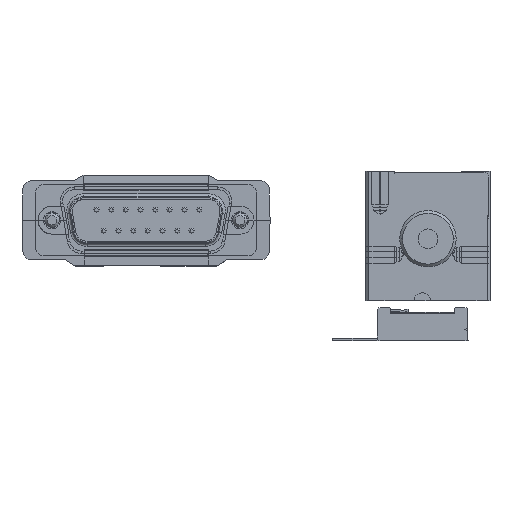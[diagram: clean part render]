
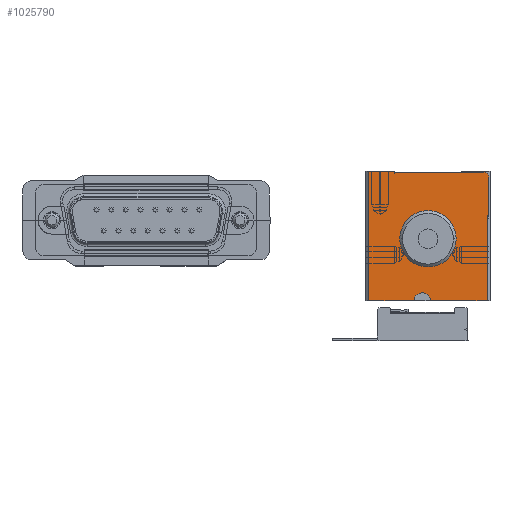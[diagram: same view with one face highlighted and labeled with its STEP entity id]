
A CAD part, front view. The second image highlights one B-rep face of the part: STEP entity #1025790.
In plain terms, the highlighted planar face has unit normal (0, -1, 0) as drawn and (1, 0, 0) by its records, which use the part's own axes.
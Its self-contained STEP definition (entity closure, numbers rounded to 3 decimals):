
#1017110=CARTESIAN_POINT('',(40.,22.,0.));
#1017120=DIRECTION('',(0.,-1.,0.));
#1017130=VECTOR('',#1017120,1.);
#1017140=LINE('',#1017110,#1017130);
#1017150=CARTESIAN_POINT('',(40.,5.,0.));
#1017160=VERTEX_POINT('',#1017150);
#1017170=CARTESIAN_POINT('',(40.,0.5,0.));
#1017180=VERTEX_POINT('',#1017170);
#1017190=EDGE_CURVE('',#1017160,#1017180,#1017140,.T.);
#1020060=CARTESIAN_POINT('',(40.,0.5,-23.));
#1020070=VERTEX_POINT('',#1020060);
#1020100=CARTESIAN_POINT('',(40.,0.,-23.));
#1020110=DIRECTION('',(0.,1.,0.));
#1020120=VECTOR('',#1020110,1.);
#1020130=LINE('',#1020100,#1020120);
#1020140=CARTESIAN_POINT('',(40.,8.6,-23.));
#1020150=VERTEX_POINT('',#1020140);
#1020160=EDGE_CURVE('',#1020070,#1020150,#1020130,.T.);
#1020380=CARTESIAN_POINT('',(40.,11.4,-23.));
#1020390=VERTEX_POINT('',#1020380);
#1020420=CARTESIAN_POINT('',(40.,21.5,-23.));
#1020430=VERTEX_POINT('',#1020420);
#1020440=EDGE_CURVE('',#1020390,#1020430,#1020130,.T.);
#1022360=CARTESIAN_POINT('',(40.,11.4,0.));
#1022370=DIRECTION('',(0.,0.,1.));
#1022380=VECTOR('',#1022370,1.);
#1022390=LINE('',#1022360,#1022380);
#1022400=CARTESIAN_POINT('',(40.,11.4,-22.8));
#1022410=VERTEX_POINT('',#1022400);
#1022420=EDGE_CURVE('',#1020390,#1022410,#1022390,.T.);
#1023090=CARTESIAN_POINT('',(40.,9.8,-22.8));
#1023100=DIRECTION('',(-1.,0.,0.));
#1023110=DIRECTION('',(0.,1.,0.));
#1023120=AXIS2_PLACEMENT_3D('',#1023090,#1023100,#1023110);
#1023130=CIRCLE('',#1023120,1.2);
#1023140=CARTESIAN_POINT('',(40.,8.6,-22.8));
#1023150=VERTEX_POINT('',#1023140);
#1023160=CARTESIAN_POINT('',(40.,9.8,-21.6));
#1023170=VERTEX_POINT('',#1023160);
#1023180=EDGE_CURVE('',#1023150,#1023170,#1023130,.T.);
#1023410=CARTESIAN_POINT('',(40.,0.,-21.6));
#1023420=DIRECTION('',(0.,-1.,0.));
#1023430=VECTOR('',#1023420,1.);
#1023440=LINE('',#1023410,#1023430);
#1023450=CARTESIAN_POINT('',(40.,10.2,-21.6));
#1023460=VERTEX_POINT('',#1023450);
#1023470=EDGE_CURVE('',#1023460,#1023170,#1023440,.T.);
#1023670=CARTESIAN_POINT('',(40.,10.2,-22.8));
#1023680=DIRECTION('',(-1.,0.,0.));
#1023690=DIRECTION('',(0.,1.,0.));
#1023700=AXIS2_PLACEMENT_3D('',#1023670,#1023680,#1023690);
#1023710=CIRCLE('',#1023700,1.2);
#1023720=EDGE_CURVE('',#1023460,#1022410,#1023710,.T.);
#1023850=CARTESIAN_POINT('',(40.,8.6,0.));
#1023860=DIRECTION('',(0.,0.,-1.));
#1023870=VECTOR('',#1023860,1.);
#1023880=LINE('',#1023850,#1023870);
#1023890=EDGE_CURVE('',#1023150,#1020150,#1023880,.T.);
#1024000=CARTESIAN_POINT('',(40.,5.846,-7.9));
#1024010=DIRECTION('',(0.,-1.,0.));
#1024020=VECTOR('',#1024010,1.);
#1024030=LINE('',#1024000,#1024020);
#1024040=CARTESIAN_POINT('',(40.,21.8,-7.9));
#1024050=VERTEX_POINT('',#1024040);
#1024060=CARTESIAN_POINT('',(40.,21.5,-7.9));
#1024070=VERTEX_POINT('',#1024060);
#1024080=EDGE_CURVE('',#1024050,#1024070,#1024030,.T.);
#1024810=CARTESIAN_POINT('',(40.,0.1,-0.8))
;
#1024820=DIRECTION('',(1.,-0.,0.));
#1024830=DIRECTION('',(0.,0.,-1.));
#1024840=AXIS2_PLACEMENT_3D('',#1024810,#1024820,#1024830);
#1024850=PLANE('',#1024840);
#1024860=CARTESIAN_POINT('',(40.,20.9,-1.1));
#1024870=DIRECTION('',(1.,0.,0.));
#1024880=DIRECTION('',(0.,-1.,0.));
#1024890=AXIS2_PLACEMENT_3D('',#1024860,#1024870,#1024880);
#1024900=CIRCLE('',#1024890,0.9);
#1024910=CARTESIAN_POINT('',(40.,21.8,-1.1));
#1024920=VERTEX_POINT('',#1024910);
#1024930=CARTESIAN_POINT('',(40.,20.9,-0.2));
#1024940=VERTEX_POINT('',#1024930);
#1024950=EDGE_CURVE('',#1024920,#1024940,#1024900,.T.);
#1024960=ORIENTED_EDGE('',*,*,#1024950,.T.);
#1024970=CARTESIAN_POINT('',(40.,21.8,-0.8));
#1024980=DIRECTION('',(0.,0.,1.));
#1024990=VECTOR('',#1024980,1.);
#1025000=LINE('',#1024970,#1024990);
#1025010=EDGE_CURVE('',#1024050,#1024920,#1025000,.T.);
#1025020=ORIENTED_EDGE('',*,*,#1025010,.T.);
#1025030=ORIENTED_EDGE('',*,*,#1024080,.F.);
#1025040=CARTESIAN_POINT('',(40.,21.5,0.));
#1025050=DIRECTION('',(0.,0.,1.));
#1025060=VECTOR('',#1025050,1.);
#1025070=LINE('',#1025040,#1025060);
#1025080=CARTESIAN_POINT('',(40.,21.5,-8.));
#1025090=VERTEX_POINT('',#1025080);
#1025100=EDGE_CURVE('',#1025090,#1024070,#1025070,.T.);
#1025110=ORIENTED_EDGE('',*,*,#1025100,.T.);
#1025120=CARTESIAN_POINT('',(40.,21.5,-15.5));
#1025130=DIRECTION('',(0.,0.,-1.));
#1025140=VECTOR('',#1025130,1.);
#1025150=LINE('',#1025120,#1025140);
#1025160=EDGE_CURVE('',#1025090,#1020430,#1025150,.T.);
#1025170=ORIENTED_EDGE('',*,*,#1025160,.F.);
#1025180=ORIENTED_EDGE('',*,*,#1020440,.T.);
#1025190=ORIENTED_EDGE('',*,*,#1022420,.F.);
#1025200=ORIENTED_EDGE('',*,*,#1023720,.T.);
#1025210=ORIENTED_EDGE('',*,*,#1023470,.F.);
#1025220=ORIENTED_EDGE('',*,*,#1023180,.T.);
#1025230=ORIENTED_EDGE('',*,*,#1023890,.F.);
#1025240=ORIENTED_EDGE('',*,*,#1020160,.T.);
#1025250=CARTESIAN_POINT('',(40.,0.5,-11.5));
#1025260=DIRECTION('',(0.,0.,-1.));
#1025270=VECTOR('',#1025260,1.);
#1025280=LINE('',#1025250,#1025270);
#1025290=EDGE_CURVE('',#1017180,#1020070,#1025280,.T.);
#1025300=ORIENTED_EDGE('',*,*,#1025290,.T.);
#1025310=ORIENTED_EDGE('',*,*,#1017190,.T.);
#1025320=CARTESIAN_POINT('',(40.,5.,0.));
#1025330=DIRECTION('',(0.,0.,-1.));
#1025340=VECTOR('',#1025330,1.);
#1025350=LINE('',#1025320,#1025340);
#1025360=CARTESIAN_POINT('',(40.,5.,-0.5));
#1025370=VERTEX_POINT('',#1025360);
#1025380=EDGE_CURVE('',#1017160,#1025370,#1025350,.T.);
#1025390=ORIENTED_EDGE('',*,*,#1025380,.F.);
#1025400=CARTESIAN_POINT('',(40.,0.,-0.5));
#1025410=DIRECTION('',(0.,-1.,0.));
#1025420=VECTOR('',#1025410,1.);
#1025430=LINE('',#1025400,#1025420);
#1025440=CARTESIAN_POINT('',(40.,5.05,-0.5));
#1025450=VERTEX_POINT('',#1025440);
#1025460=EDGE_CURVE('',#1025450,#1025370,#1025430,.T.);
#1025470=ORIENTED_EDGE('',*,*,#1025460,.T.);
#1025480=CARTESIAN_POINT('',(40.,5.05,-0.8));
#1025490=DIRECTION('',(0.,0.,1.));
#1025500=VECTOR('',#1025490,1.);
#1025510=LINE('',#1025480,#1025500);
#1025520=CARTESIAN_POINT('',(40.,5.05,-0.2));
#1025530=VERTEX_POINT('',#1025520);
#1025540=EDGE_CURVE('',#1025450,#1025530,#1025510,.T.);
#1025550=ORIENTED_EDGE('',*,*,#1025540,.F.);
#1025560=CARTESIAN_POINT('',(40.,5.646,-0.2));
#1025570=DIRECTION('',(0.,1.,0.));
#1025580=VECTOR('',#1025570,1.);
#1025590=LINE('',#1025560,#1025580);
#1025600=EDGE_CURVE('',#1025530,#1024940,#1025590,.T.);
#1025610=ORIENTED_EDGE('',*,*,#1025600,.F.);
#1025620=EDGE_LOOP('',(#1025610,#1025550,#1025470,#1025390,#1025310,
#1025300,#1025240,#1025230,#1025220,#1025210,#1025200,#1025190,#1025180,
#1025170,#1025110,#1025030,#1025020,#1024960));
#1025630=FACE_OUTER_BOUND('',#1025620,.T.);
#1025640=CARTESIAN_POINT('',(40.,11.,-12.));
#1025650=DIRECTION('',(1.,0.,0.));
#1025660=DIRECTION('',(0.,1.,0.));
#1025670=AXIS2_PLACEMENT_3D('',#1025640,#1025650,#1025660);
#1025680=CIRCLE('',#1025670,5.);
#1025690=CARTESIAN_POINT('',(40.,16.,-12.));
#1025700=VERTEX_POINT('',#1025690);
#1025710=CARTESIAN_POINT('',(40.,6.,-12.));
#1025720=VERTEX_POINT('',#1025710);
#1025730=EDGE_CURVE('',#1025700,#1025720,#1025680,.T.);
#1025740=ORIENTED_EDGE('',*,*,#1025730,.F.);
#1025750=EDGE_CURVE('',#1025720,#1025700,#1025680,.T.);
#1025760=ORIENTED_EDGE('',*,*,#1025750,.F.);
#1025770=EDGE_LOOP('',(#1025760,#1025740));
#1025780=FACE_BOUND('',#1025770,.T.);
#1025790=ADVANCED_FACE('',(#1025630,#1025780),#1024850,.T.);
